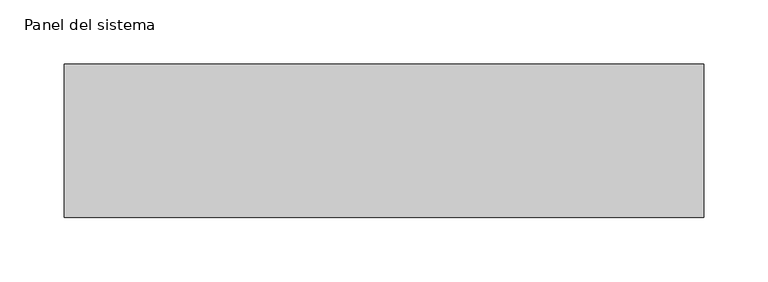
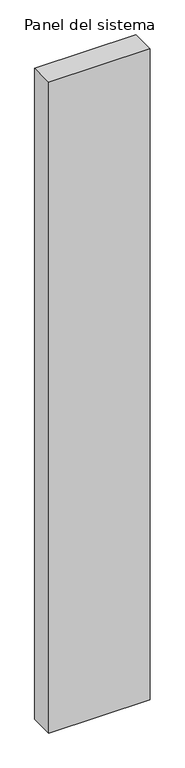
"""IFC4 building model written with IfcOpenShell, lengths in millimetres: plate geometry, Panel del sistema : HIANSA PANEL - PANELES DE CUBIERTA CON TAPAJUNTA - CUB 3GR - Esp. 120mm."""

from ifc_helpers import new_model, si_unit, origin, origin_with_axes, place, context, project, spatial, polyline, outline, extrude, source, transform, mapped, element, save


def panel_del_sistema_623d6d39(model_context):
    return source(origin(), model_context, "Body", "SweptSolid", [
        extrude(outline(polyline([(249.9999998, 0.0), (-249.9999998, 0.0), (-249.9999998, 120.0), (249.9999998, 120.0), (249.9999998, 0.0)])), origin_with_axes(), (0.0, 0.0, 1.0), 3390.8509027),
    ])


if __name__ == "__main__":
    model = new_model("IFC4")
    model_context = context("Model", 3, world=origin())
    ifc_project = project(units=[si_unit("LENGTHUNIT", "METRE", prefix="MILLI")], contexts=[model_context])
    site = spatial("IfcSite", under=ifc_project)
    building = spatial("IfcBuilding", under=site)
    placement = place(None, origin())
    panel_del_sistema_shape = panel_del_sistema_623d6d39(model_context)
    element("IfcPlate", 1, ObjectType="Panel del sistema : HIANSA PANEL - PANELES DE CUBIERTA CON TAPAJUNTA - CUB 3GR - Esp. 120mm", at=placement, inside=building, context=model_context, shape_type="MappedRepresentation", body=[
        mapped(panel_del_sistema_shape, transform((0.0, 0.0, 0.0), x_axis=(1.0, 0.0, 0.0), y_axis=(0.0, 1.0, 0.0), z_axis=(0.0, 0.0, 1.0))),
    ])
    save(model, "model.ifc")
